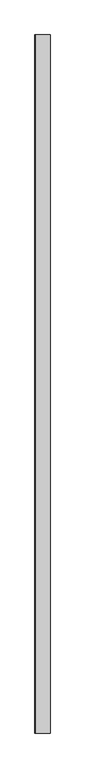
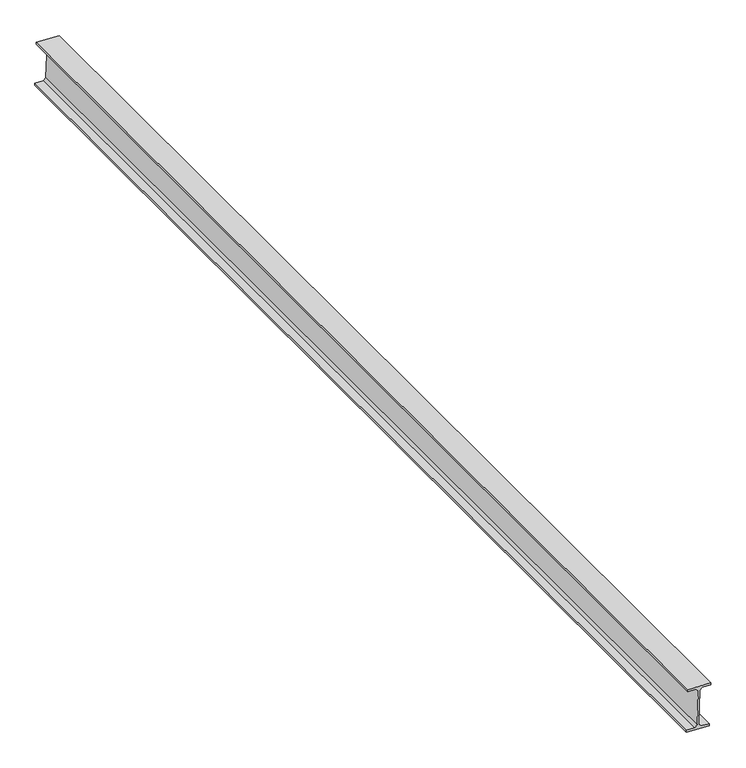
"""IFC4 building model written with IfcOpenShell, lengths in millimetres: beam geometry, Panne 2840 : Panne 2840."""

import ifcopenshell
import ifcopenshell.guid

model = None  # the IFC model being written
_history = None  # IfcOwnerHistory: only IFC2X3 demands one
_inside = {}  # id of a spatial element -> (the spatial element, [elements in it])
_under = {}  # id of a project, library or spatial element -> (it, [spatial elements below it])
_declared = {}  # id of a project -> (the project, [libraries it declares])
_typed = {}  # id of a type object -> (the type object, [elements of that type])
_made_of = {}  # id of a material, layer set ... -> (it, [elements and type objects made of it])


def new_model(schema):
    """Start an empty IFC model of exactly this schema.

    Asked for "IFC4X3", IfcOpenShell would pick the latest addendum, in which some entities
    have other attributes; the version numbers below select the first issue.
    IFC2X3 requires an IfcOwnerHistory on every rooted entity: one is made here for all.
    """
    global model, _history
    if schema == "IFC4X3":
        model = ifcopenshell.file(schema_version=(4, 3, 0, 0))
    else:
        model = ifcopenshell.file(schema=schema)
    _inside.clear()
    _under.clear()
    _declared.clear()
    _typed.clear()
    _made_of.clear()
    _history = None
    if model.schema == "IFC2X3":
        org = make("IfcOrganization", Name="unknown")
        user = make(
            "IfcPersonAndOrganization",
            ThePerson=make("IfcPerson", FamilyName="unknown"),
            TheOrganization=org,
        )
        app = make(
            "IfcApplication",
            ApplicationDeveloper=org,
            Version="unknown",
            ApplicationFullName="unknown",
            ApplicationIdentifier="unknown",
        )
        _history = make(
            "IfcOwnerHistory",
            OwningUser=user,
            OwningApplication=app,
            ChangeAction="ADDED",
            CreationDate=0,
        )
    return model


def make(cls, **values):
    """One entity of the class cls with the attributes given. An attribute that is None is left unset."""
    return model.create_entity(
        cls, **{name: value for name, value in values.items() if value is not None}
    )


def rooted(cls, **values):
    """An entity with a GlobalId (a new one), such as an element, a storey or a relation."""
    return make(cls, GlobalId=ifcopenshell.guid.new(), OwnerHistory=_history, **values)


def si_unit(unit_type, name, prefix=None):
    """IfcSIUnit, for example si_unit("LENGTHUNIT", "METRE", prefix="MILLI")."""
    return make("IfcSIUnit", UnitType=unit_type, Prefix=prefix, Name=name)


def assignment(units):
    """IfcUnitAssignment: the units of a project."""
    return None if units is None else make("IfcUnitAssignment", Units=units)


def point(xyz):
    """IfcCartesianPoint."""
    return None if xyz is None else make("IfcCartesianPoint", Coordinates=xyz)


def direction(xyz):
    """IfcDirection."""
    return None if xyz is None else make("IfcDirection", DirectionRatios=xyz)


def frame(location, z_axis=None, x_axis=None):
    """IfcAxis2Placement3D, a coordinate frame: its origin and axes. An axis left out is left unset."""
    return make(
        "IfcAxis2Placement3D",
        Location=point(location),
        Axis=direction(z_axis),
        RefDirection=direction(x_axis),
    )


def origin():
    """The frame at (0, 0, 0) with its axes left unset."""
    return frame((0.0, 0.0, 0.0))


def place(relative_to, where):
    """IfcLocalPlacement: puts the frame where relative to a parent placement (None: the world)."""
    return make(
        "IfcLocalPlacement", PlacementRelTo=relative_to, RelativePlacement=where
    )


def context(
    kind, dimensions, precision=None, world=None, true_north=None, identifier=None
):
    """IfcGeometricRepresentationContext, for example the 3D "Model" context."""
    return make(
        "IfcGeometricRepresentationContext",
        ContextIdentifier=identifier,
        ContextType=kind,
        CoordinateSpaceDimension=dimensions,
        Precision=precision,
        WorldCoordinateSystem=world,
        TrueNorth=true_north,
    )


def project(units=None, contexts=None):
    """IfcProject with its units and contexts."""
    return rooted(
        "IfcProject",
        Name="project",
        RepresentationContexts=contexts,
        UnitsInContext=assignment(units),
    )


def spatial(cls, under=None, at=None, **own):
    """A site, building, storey or space (cls), placed at a placement, below another one or the project."""
    s = rooted(cls, ObjectPlacement=at, **own)
    if under is not None:
        _under.setdefault(under.id(), (under, []))[1].append(s)
    return s


def polyline(points):
    """IfcPolyline through the points."""
    return make("IfcPolyline", Points=[point(p) for p in points])


def outline(outer, holes=None, kind="AREA"):
    """IfcArbitraryClosedProfileDef: a profile drawn as a closed curve; with holes, ...WithVoids."""
    if holes is None:
        return make("IfcArbitraryClosedProfileDef", ProfileType=kind, OuterCurve=outer)
    return make(
        "IfcArbitraryProfileDefWithVoids",
        ProfileType=kind,
        OuterCurve=outer,
        InnerCurves=holes,
    )


def extrude(swept, where, along, depth):
    """IfcExtrudedAreaSolid: the profile swept, set in the frame where, extruded along a direction by depth."""
    return make(
        "IfcExtrudedAreaSolid",
        SweptArea=swept,
        Position=where,
        ExtrudedDirection=direction(along),
        Depth=depth,
    )


def shape(context_of_items, identifier, shape_type, items):
    """IfcShapeRepresentation: the items that make up one representation, for example the "Body"."""
    return make(
        "IfcShapeRepresentation",
        ContextOfItems=context_of_items,
        RepresentationIdentifier=identifier,
        RepresentationType=shape_type,
        Items=items,
    )


def source(mapping_origin, context_of_items, identifier, shape_type, items):
    """IfcRepresentationMap: a shape defined once, which mapped items show again and again."""
    return make(
        "IfcRepresentationMap",
        MappingOrigin=mapping_origin,
        MappedRepresentation=shape(context_of_items, identifier, shape_type, items),
    )


def transform(
    local_origin,
    x_axis=None,
    y_axis=None,
    z_axis=None,
    scale=None,
    scale2=None,
    scale3=None,
    uniform=True,
):
    """IfcCartesianTransformationOperator3D, or its non-uniform kind. x_axis, y_axis, z_axis: its Axis1, 2, 3."""
    if uniform:
        return make(
            "IfcCartesianTransformationOperator3D",
            Axis1=direction(x_axis),
            Axis2=direction(y_axis),
            LocalOrigin=point(local_origin),
            Scale=scale,
            Axis3=direction(z_axis),
        )
    return make(
        "IfcCartesianTransformationOperator3DnonUniform",
        Axis1=direction(x_axis),
        Axis2=direction(y_axis),
        LocalOrigin=point(local_origin),
        Scale=scale,
        Axis3=direction(z_axis),
        Scale2=scale2,
        Scale3=scale3,
    )


def mapped(mapping_source, mapping_target):
    """IfcMappedItem: shows the shape of a source again, moved by a transform."""
    return make(
        "IfcMappedItem", MappingSource=mapping_source, MappingTarget=mapping_target
    )


def made_of(thing, what):
    """Note that an element or type object is made of a material, layer set ...; save() writes the relation."""
    if what is not None:
        _made_of.setdefault(what.id(), (what, []))[1].append(thing)
    return thing


def element(
    cls,
    number,
    at=None,
    inside=None,
    cuts=None,
    type_object=None,
    material=None,
    context=None,
    identifier="Body",
    shape_type=None,
    held_by="IfcProductDefinitionShape",
    body=None,
    shapes=None,
    **own,
):
    """One element of the class cls, such as IfcWall. Its Tag is "e" and its number.

    at: its placement. inside: the storey or other place that contains it. cuts: it is an
    opening in that element (IfcRelVoidsElement). A single representation is given by context,
    identifier, shape_type and body (its items); several are given by shapes. held_by: the class
    of the entity that holds the representations. save() writes the other relations.
    """
    e = rooted(cls, Tag="e%d" % number, ObjectPlacement=at, **own)
    if body is not None:
        shapes = [shape(context, identifier, shape_type, body)]
    if shapes is not None:
        e.Representation = make(held_by, Representations=shapes)
    if inside is not None:
        _inside.setdefault(inside.id(), (inside, []))[1].append(e)
    if cuts is not None:
        rooted(
            "IfcRelVoidsElement", RelatingBuildingElement=cuts, RelatedOpeningElement=e
        )
    if type_object is not None:
        _typed.setdefault(type_object.id(), (type_object, []))[1].append(e)
    return made_of(e, material)


def aggregate(whole, parts):
    """IfcRelAggregates: a whole, such as a stair, and the parts it consists of."""
    return rooted("IfcRelAggregates", RelatingObject=whole, RelatedObjects=parts)


def save(model, path):
    """Write the relations noted so far, then the file.

    IfcRelAggregates (storeys below a building ...), IfcRelContainedInSpatialStructure (elements
    in a storey), IfcRelDefinesByType, IfcRelAssociatesMaterial and IfcRelDeclares: one each for
    every whole, place, type object, material and project.
    """
    for whole, parts in _under.values():
        aggregate(whole, parts)
    for where, things in _inside.values():
        rooted(
            "IfcRelContainedInSpatialStructure",
            RelatedElements=things,
            RelatingStructure=where,
        )
    for kind, things in _typed.values():
        rooted("IfcRelDefinesByType", RelatedObjects=things, RelatingType=kind)
    for what, things in _made_of.values():
        rooted("IfcRelAssociatesMaterial", RelatedObjects=things, RelatingMaterial=what)
    for by, libraries in _declared.values():
        rooted("IfcRelDeclares", RelatingContext=by, RelatedDefinitions=libraries)
    model.write(path)


def beam_fe685b0a(model_context):
    return source(origin(), model_context, "Body", "SweptSolid", [
        extrude(outline(polyline([(7557.2227105, 13402.0788123), (7556.1908423, 13431.5607601), (7546.8815425, 13440.2404454), (7419.759381, 13435.7911698), (7411.0796957, 13426.48187), (7412.1115638, 13396.9999222), (7404.7160922, 13396.7410807), (7401.8478484, 13478.6909017), (7409.2433201, 13478.9497433), (7410.2751883, 13449.4677954), (7419.5844881, 13440.7881101), (7546.7066496, 13445.2373858), (7555.3863349, 13454.5466856), (7554.3544667, 13484.0286334), (7561.7499384, 13484.2874749), (7564.6181821, 13402.3376538), (7557.2227105, 13402.0788123)])), frame((0.0, -12730.0, 0.0), z_axis=(0.0, 1.0, 0.0), x_axis=(0.0, 0.0, 1.0)), (0.0, 0.0, 1.0), 4040.0),
    ])


if __name__ == "__main__":
    model = new_model("IFC4")
    model_context = context("Model", 3, world=origin())
    ifc_project = project(units=[si_unit("LENGTHUNIT", "METRE", prefix="MILLI")], contexts=[model_context])
    site = spatial("IfcSite", under=ifc_project)
    building = spatial("IfcBuilding", under=site)
    placement = place(None, origin())
    beam_shape = beam_fe685b0a(model_context)
    element("IfcBeam", 1, ObjectType="Panne 2840 : Panne 2840", at=placement, inside=building, context=model_context, shape_type="MappedRepresentation", body=[
        mapped(beam_shape, transform((0.0, 0.0, 0.0), x_axis=(1.0, 0.0, 0.0), y_axis=(0.0, 1.0, 0.0), z_axis=(0.0, 0.0, 1.0))),
    ])
    save(model, "model.ifc")
